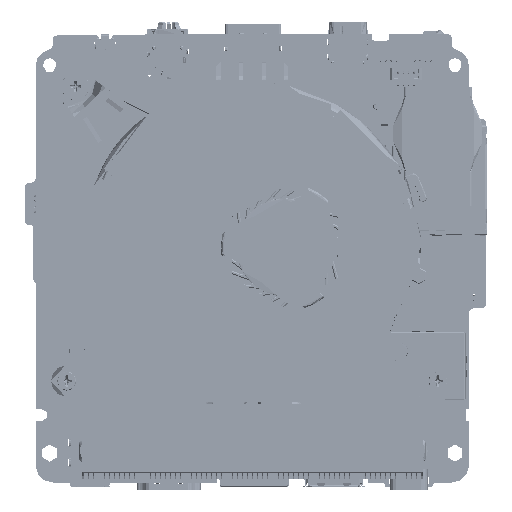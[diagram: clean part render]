
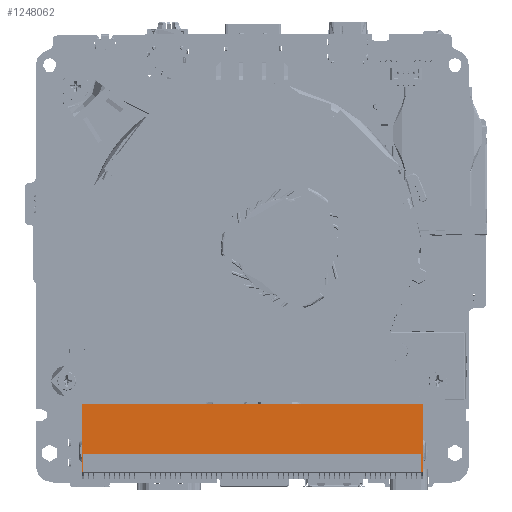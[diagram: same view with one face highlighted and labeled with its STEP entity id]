
A CAD part, front view. The second image highlights one B-rep face of the part: STEP entity #1248062.
In plain terms, the highlighted planar face has unit normal (0, -1, 0).
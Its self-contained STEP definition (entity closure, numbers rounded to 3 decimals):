
#6145 = EDGE_CURVE ( 'NONE', #661678, #903803, #1049739, .T. ) ;
#11345 = DIRECTION ( 'NONE',  ( 0., 0., 1. ) ) ;
#54143 = CARTESIAN_POINT ( 'NONE',  ( 39.55, -15.898, -44. ) ) ;
#93024 = VECTOR ( 'NONE', #104029, 1000. ) ;
#104029 = DIRECTION ( 'NONE',  ( 0., 0., -1. ) ) ;
#107716 = CARTESIAN_POINT ( 'NONE',  ( 39.95, -15.898, -48.36 ) ) ;
#114888 = CARTESIAN_POINT ( 'NONE',  ( 39.75, -15.898, -48.36 ) ) ;
#120062 = CARTESIAN_POINT ( 'NONE',  ( 0.05, -15.898, -40.33 ) ) ;
#140177 = EDGE_CURVE ( 'NONE', #903803, #253088, #442077, .T. ) ;
#145618 = CARTESIAN_POINT ( 'NONE',  ( 39.95, -15.898, -32.3 ) ) ;
#162928 = DIRECTION ( 'NONE',  ( 1., 0., 0. ) ) ;
#182734 = LINE ( 'NONE', #1024866, #1067367 ) ;
#215112 = VERTEX_POINT ( 'NONE', #1229860 ) ;
#223380 = EDGE_CURVE ( 'NONE', #593805, #215112, #1013160, .T. ) ;
#253088 = VERTEX_POINT ( 'NONE', #927911 ) ;
#256509 = ORIENTED_EDGE ( 'NONE', *, *, #6145, .F. ) ;
#258809 = ORIENTED_EDGE ( 'NONE', *, *, #466608, .T. ) ;
#264476 = CARTESIAN_POINT ( 'NONE',  ( 0.05, -15.898, -44. ) ) ;
#285468 = CARTESIAN_POINT ( 'NONE',  ( -39.65, -15.898, -40.33 ) ) ;
#322644 = EDGE_CURVE ( 'NONE', #1082388, #808074, #398512, .T. ) ;
#328772 = CARTESIAN_POINT ( 'NONE',  ( 39.55, -15.898, -48.36 ) ) ;
#341954 = EDGE_CURVE ( 'NONE', #593805, #1061790, #182734, .T. ) ;
#359833 = EDGE_LOOP ( 'NONE', ( #258809, #956405, #1085725, #384803, #533020, #498172, #538662, #632989, #256509 ) ) ;
#378923 = EDGE_CURVE ( 'NONE', #253088, #1061790, #1105227, .T. ) ;
#384803 = ORIENTED_EDGE ( 'NONE', *, *, #580783, .F. ) ;
#387547 = DIRECTION ( 'NONE',  ( 1., 0., 0. ) ) ;
#398512 = LINE ( 'NONE', #875049, #93024 ) ;
#441002 = VECTOR ( 'NONE', #387547, 1000. ) ;
#442077 = LINE ( 'NONE', #264476, #1188842 ) ;
#466608 = EDGE_CURVE ( 'NONE', #661678, #488750, #1068345, .T. ) ;
#471679 = LINE ( 'NONE', #1043841, #441002 ) ;
#480920 = VECTOR ( 'NONE', #758428, 1000. ) ;
#488750 = VERTEX_POINT ( 'NONE', #114888 ) ;
#498172 = ORIENTED_EDGE ( 'NONE', *, *, #341954, .T. ) ;
#530916 = DIRECTION ( 'NONE',  ( 1., 0., 0. ) ) ;
#533020 = ORIENTED_EDGE ( 'NONE', *, *, #223380, .F. ) ;
#538662 = ORIENTED_EDGE ( 'NONE', *, *, #378923, .F. ) ;
#580783 = EDGE_CURVE ( 'NONE', #215112, #1082388, #716597, .T. ) ;
#593805 = VERTEX_POINT ( 'NONE', #1053387 ) ;
#632989 = ORIENTED_EDGE ( 'NONE', *, *, #140177, .F. ) ;
#652657 = CARTESIAN_POINT ( 'NONE',  ( -0.05, -15.898, -48.36 ) ) ;
#660429 = DIRECTION ( 'NONE',  ( -1., 0., 0. ) ) ;
#661678 = VERTEX_POINT ( 'NONE', #328772 ) ;
#677292 = DIRECTION ( 'NONE',  ( 1., 0., 0. ) ) ;
#695605 = CARTESIAN_POINT ( 'NONE',  ( -39.65, -15.898, -48.36 ) ) ;
#716597 = LINE ( 'NONE', #1162651, #777746 ) ;
#749002 = CARTESIAN_POINT ( 'NONE',  ( 39.55, -15.898, -40.33 ) ) ;
#758428 = DIRECTION ( 'NONE',  ( 0., 0., -1. ) ) ;
#760125 = VECTOR ( 'NONE', #1042838, 1000. ) ;
#777746 = VECTOR ( 'NONE', #677292, 1000. ) ;
#784590 = VECTOR ( 'NONE', #11345, 1000. ) ;
#799744 = AXIS2_PLACEMENT_3D ( 'NONE', #120062, #989032, #1086916 ) ;
#808074 = VERTEX_POINT ( 'NONE', #107716 ) ;
#825183 = VECTOR ( 'NONE', #162928, 1000. ) ;
#855023 = CARTESIAN_POINT ( 'NONE',  ( -39.85, -15.898, -40.33 ) ) ;
#875049 = CARTESIAN_POINT ( 'NONE',  ( 39.95, -15.898, -40.33 ) ) ;
#899421 = PLANE ( 'NONE',  #799744 ) ;
#903803 = VERTEX_POINT ( 'NONE', #54143 ) ;
#920970 = EDGE_CURVE ( 'NONE', #488750, #808074, #471679, .T. ) ;
#927911 = CARTESIAN_POINT ( 'NONE',  ( -39.65, -15.898, -44. ) ) ;
#934829 = FACE_OUTER_BOUND ( 'NONE', #359833, .T. ) ;
#956405 = ORIENTED_EDGE ( 'NONE', *, *, #920970, .T. ) ;
#989032 = DIRECTION ( 'NONE',  ( 0., 1., 0. ) ) ;
#1013160 = LINE ( 'NONE', #855023, #784590 ) ;
#1024866 = CARTESIAN_POINT ( 'NONE',  ( -39.75, -15.898, -48.36 ) ) ;
#1042838 = DIRECTION ( 'NONE',  ( 0., 0., 1. ) ) ;
#1043841 = CARTESIAN_POINT ( 'NONE',  ( 39.85, -15.898, -48.36 ) ) ;
#1049739 = LINE ( 'NONE', #749002, #760125 ) ;
#1053387 = CARTESIAN_POINT ( 'NONE',  ( -39.85, -15.898, -48.36 ) ) ;
#1061790 = VERTEX_POINT ( 'NONE', #695605 ) ;
#1067367 = VECTOR ( 'NONE', #530916, 1000. ) ;
#1068345 = LINE ( 'NONE', #652657, #825183 ) ;
#1082388 = VERTEX_POINT ( 'NONE', #145618 ) ;
#1085725 = ORIENTED_EDGE ( 'NONE', *, *, #322644, .F. ) ;
#1086916 = DIRECTION ( 'NONE',  ( 0., 0., 1. ) ) ;
#1105227 = LINE ( 'NONE', #285468, #480920 ) ;
#1162651 = CARTESIAN_POINT ( 'NONE',  ( 0.05, -15.898, -32.3 ) ) ;
#1188842 = VECTOR ( 'NONE', #660429, 1000. ) ;
#1229860 = CARTESIAN_POINT ( 'NONE',  ( -39.85, -15.898, -32.3 ) ) ;
#1248062 = ADVANCED_FACE ( 'NONE', ( #934829 ), #899421, .F. ) ;
